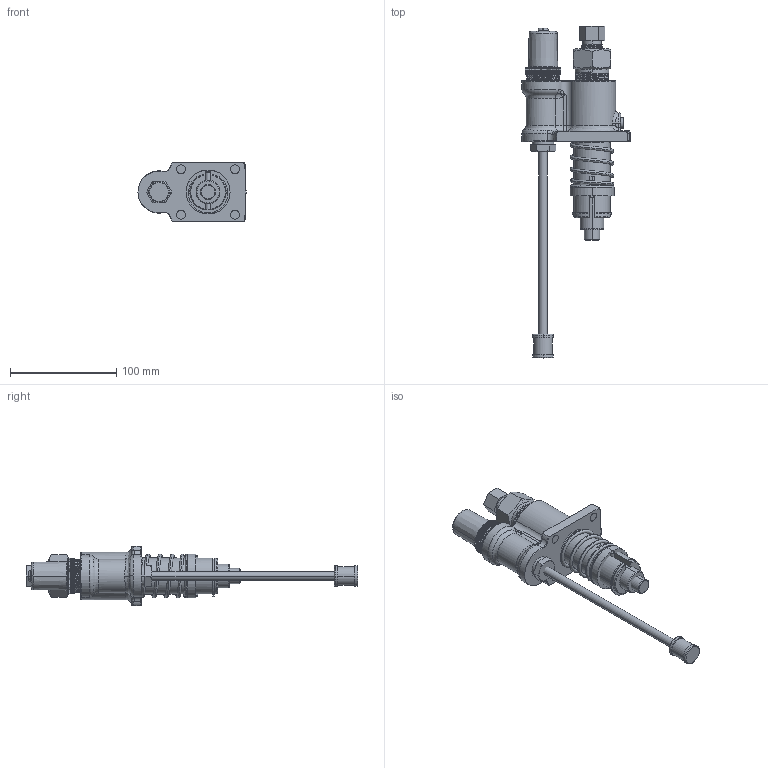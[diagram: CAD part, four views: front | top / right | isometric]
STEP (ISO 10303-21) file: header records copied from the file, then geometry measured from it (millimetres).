
FILE_DESCRIPTION((''),'2;1');
FILE_NAME('562951-EN-L_PRT','2020-03-05T07:49:25',('qusrh3'),(''),'CREO PARAMETRIC BY PTC INC, 2019030','CREO PARAMETRIC BY PTC INC, 2019030','');
FILE_SCHEMA(('CONFIG_CONTROL_DESIGN'));
Length unit declared in the file: inch
Products named in the file (1): 562951-EN-L_PRT
Bounding box: 101.57 x 311.96 x 56.01 mm (x, y, z)
Surface area: 75970.5 mm2 (no closed solid volume)
Topology: 0 solids, 22 shells, 618 faces, 1949 edges, 1288 vertices
Faces by surface type: plane 260, cone 142, cylinder 133, bspline 69, torus 14
Entity records: 36692 total; most frequent: CARTESIAN_POINT 20790, ORIENTED_EDGE 3467, DIRECTION 2882, EDGE_CURVE 1949, VERTEX_POINT 1288, AXIS2_PLACEMENT_3D 998, VECTOR 886, LINE 886
